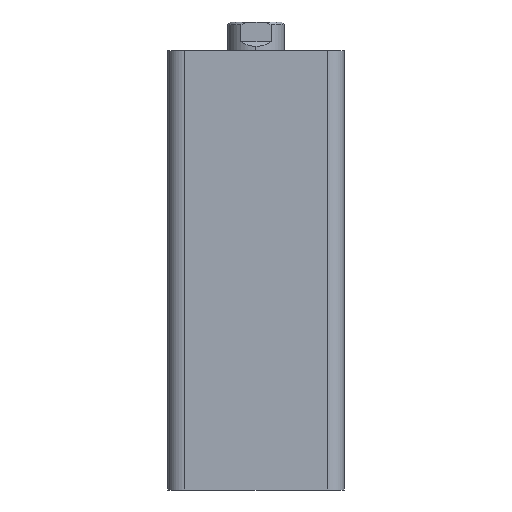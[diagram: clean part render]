
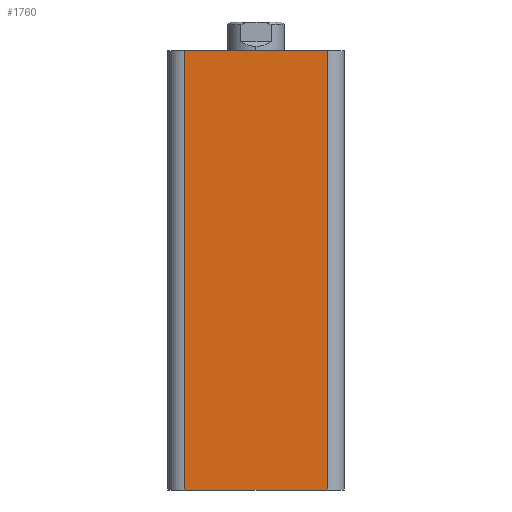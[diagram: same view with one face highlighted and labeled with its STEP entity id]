
A CAD part, left-side view. The second image highlights one B-rep face of the part: STEP entity #1760.
In plain terms, the highlighted planar face has unit normal (-1, 0, 0).
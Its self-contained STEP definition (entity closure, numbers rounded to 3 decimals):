
#14 = DIRECTION ( 'NONE',  ( 0., 0., -1. ) ) ;
#15 = DIRECTION ( 'NONE',  ( 1., 0., 0. ) ) ;
#17 = PLANE ( 'NONE',  #2033 ) ;
#20 = CARTESIAN_POINT ( 'NONE',  ( -31., 31., 154. ) ) ;
#67 = LINE ( 'NONE', #2689, #69 ) ;
#69 = VECTOR ( 'NONE', #2723, 1000. ) ;
#276 = DIRECTION ( 'NONE',  ( 0., -1., 0. ) ) ;
#278 = CARTESIAN_POINT ( 'NONE',  ( -31., 31., 0. ) ) ;
#302 = CARTESIAN_POINT ( 'NONE',  ( -31., -25., 154. ) ) ;
#303 = DIRECTION ( 'NONE',  ( 0., 0., 1. ) ) ;
#304 = CARTESIAN_POINT ( 'NONE',  ( -31., 25., 154. ) ) ;
#305 = DIRECTION ( 'NONE',  ( 0., 0., -1. ) ) ;
#375 = CARTESIAN_POINT ( 'NONE',  ( -31., 25., 0. ) ) ;
#376 = CARTESIAN_POINT ( 'NONE',  ( -31., -25., 0. ) ) ;
#570 = CARTESIAN_POINT ( 'NONE',  ( -31., -25., 154. ) ) ;
#637 = CARTESIAN_POINT ( 'NONE',  ( -31., 25., 154. ) ) ;
#941 = ORIENTED_EDGE ( 'NONE', *, *, #2548, .T. ) ;
#943 = ORIENTED_EDGE ( 'NONE', *, *, #2538, .T. ) ;
#1606 = EDGE_CURVE ( 'NONE', #4455, #4365, #67, .T. ) ;
#1652 = EDGE_LOOP ( 'NONE', ( #943, #941, #4406, #4407 ) ) ;
#1760 = ADVANCED_FACE ( 'NONE', ( #4546 ), #17, .F. ) ;
#2033 = AXIS2_PLACEMENT_3D ( 'NONE', #20, #15, #14 ) ;
#2538 = EDGE_CURVE ( 'NONE', #3180, #3181, #4942, .T. ) ;
#2548 = EDGE_CURVE ( 'NONE', #3181, #4365, #4960, .T. ) ;
#2549 = EDGE_CURVE ( 'NONE', #4455, #3180, #4962, .T. ) ;
#2689 = CARTESIAN_POINT ( 'NONE',  ( -31., 31., 154. ) ) ;
#2723 = DIRECTION ( 'NONE',  ( 0., -1., 0. ) ) ;
#3180 = VERTEX_POINT ( 'NONE', #375 ) ;
#3181 = VERTEX_POINT ( 'NONE', #376 ) ;
#4365 = VERTEX_POINT ( 'NONE', #570 ) ;
#4406 = ORIENTED_EDGE ( 'NONE', *, *, #1606, .F. ) ;
#4407 = ORIENTED_EDGE ( 'NONE', *, *, #2549, .T. ) ;
#4455 = VERTEX_POINT ( 'NONE', #637 ) ;
#4546 = FACE_OUTER_BOUND ( 'NONE', #1652, .T. ) ;
#4942 = LINE ( 'NONE', #278, #4946 ) ;
#4946 = VECTOR ( 'NONE', #276, 1000. ) ;
#4960 = LINE ( 'NONE', #302, #4963 ) ;
#4962 = LINE ( 'NONE', #304, #4965 ) ;
#4963 = VECTOR ( 'NONE', #303, 1000. ) ;
#4965 = VECTOR ( 'NONE', #305, 1000. ) ;
